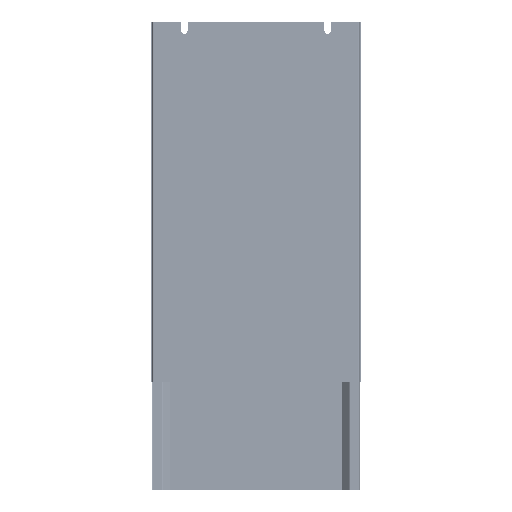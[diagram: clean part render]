
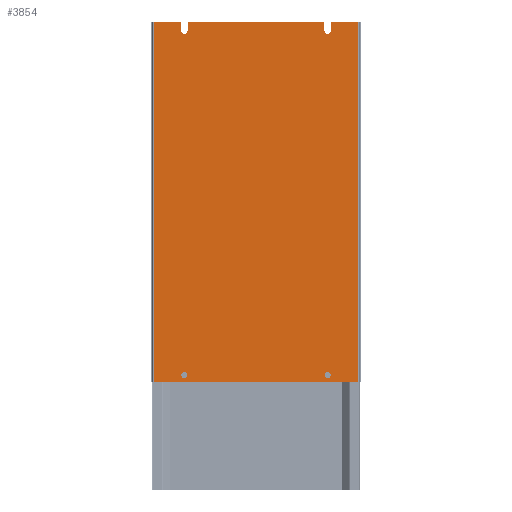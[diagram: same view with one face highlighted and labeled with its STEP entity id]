
A CAD part, front view. The second image highlights one B-rep face of the part: STEP entity #3854.
In plain terms, the highlighted planar face has unit normal (0, -1, 0).
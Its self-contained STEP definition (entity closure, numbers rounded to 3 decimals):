
#353=DIRECTION('',(0.,0.,1.));
#354=VECTOR('',#353,537.);
#355=CARTESIAN_POINT('',(171.5,0.,-268.5));
#356=LINE('',#355,#354);
#751=CARTESIAN_POINT('',(-120.,0.,-290.));
#752=DIRECTION('',(0.,1.,0.));
#753=DIRECTION('',(-1.,0.,0.));
#754=AXIS2_PLACEMENT_3D('',#751,#752,#753);
#759=CARTESIAN_POINT('',(-120.,0.,-290.));
#760=DIRECTION('',(0.,1.,0.));
#761=DIRECTION('',(1.,0.,0.));
#762=AXIS2_PLACEMENT_3D('',#759,#760,#761);
#767=CARTESIAN_POINT('',(120.,0.,-290.));
#768=DIRECTION('',(0.,1.,0.));
#769=DIRECTION('',(-1.,0.,0.));
#770=AXIS2_PLACEMENT_3D('',#767,#768,#769);
#775=CARTESIAN_POINT('',(120.,0.,-290.));
#776=DIRECTION('',(0.,1.,0.));
#777=DIRECTION('',(1.,0.,0.));
#778=AXIS2_PLACEMENT_3D('',#775,#776,#777);
#783=CARTESIAN_POINT('',(-120.,0.,287.));
#784=DIRECTION('',(0.,1.,0.));
#785=DIRECTION('',(1.,0.,0.));
#786=AXIS2_PLACEMENT_3D('',#783,#784,#785);
#791=DIRECTION('',(0.,0.,-1.));
#792=VECTOR('',#791,14.5);
#793=CARTESIAN_POINT('',(-114.75,0.,301.5));
#794=LINE('',#793,#792);
#798=DIRECTION('',(0.,0.,-1.));
#799=VECTOR('',#798,14.5);
#800=CARTESIAN_POINT('',(114.75,0.,301.5));
#801=LINE('',#800,#799);
#805=CARTESIAN_POINT('',(120.,0.,287.));
#806=DIRECTION('',(0.,1.,0.));
#807=DIRECTION('',(1.,0.,0.));
#808=AXIS2_PLACEMENT_3D('',#805,#806,#807);
#813=DIRECTION('',(0.,0.,-1.));
#814=VECTOR('',#813,14.5);
#815=CARTESIAN_POINT('',(125.25,0.,301.5));
#816=LINE('',#815,#814);
#820=DIRECTION('',(0.,0.,-1.));
#821=VECTOR('',#820,14.5);
#822=CARTESIAN_POINT('',(-125.25,0.,301.5));
#823=LINE('',#822,#821);
#876=DIRECTION('',(-1.,0.,0.));
#877=VECTOR('',#876,229.5);
#878=CARTESIAN_POINT('',(114.75,0.,301.5));
#879=LINE('',#878,#877);
#918=DIRECTION('',(-1.,0.,0.));
#919=VECTOR('',#918,46.25);
#920=CARTESIAN_POINT('',(171.5,0.,301.5));
#921=LINE('',#920,#919);
#947=DIRECTION('',(0.,0.,-1.));
#948=VECTOR('',#947,33.);
#949=CARTESIAN_POINT('',(171.5,0.,301.5));
#950=LINE('',#949,#948);
#1146=DIRECTION('',(0.,0.,-1.));
#1147=VECTOR('',#1146,33.);
#1148=CARTESIAN_POINT('',(171.5,0.,-268.5));
#1149=LINE('',#1148,#1147);
#1337=DIRECTION('',(1.,0.,0.));
#1338=VECTOR('',#1337,343.);
#1339=CARTESIAN_POINT('',(-171.5,0.,-301.5));
#1340=LINE('',#1339,#1338);
#1380=DIRECTION('',(0.,0.,1.));
#1381=VECTOR('',#1380,33.);
#1382=CARTESIAN_POINT('',(-171.5,0.,-301.5));
#1383=LINE('',#1382,#1381);
#1557=DIRECTION('',(0.,0.,1.));
#1558=VECTOR('',#1557,537.);
#1559=CARTESIAN_POINT('',(-171.5,0.,-268.5));
#1560=LINE('',#1559,#1558);
#2207=DIRECTION('',(0.,0.,1.));
#2208=VECTOR('',#2207,33.);
#2209=CARTESIAN_POINT('',(-171.5,0.,268.5));
#2210=LINE('',#2209,#2208);
#2391=DIRECTION('',(-1.,0.,0.));
#2392=VECTOR('',#2391,46.25);
#2393=CARTESIAN_POINT('',(-125.25,0.,301.5));
#2394=LINE('',#2393,#2392);
#2879=CARTESIAN_POINT('',(171.5,0.,-268.5));
#2880=VERTEX_POINT('',#2879);
#2881=CARTESIAN_POINT('',(171.5,0.,268.5));
#2882=VERTEX_POINT('',#2881);
#2885=CARTESIAN_POINT('',(-171.5,0.,-268.5));
#2886=VERTEX_POINT('',#2885);
#2887=CARTESIAN_POINT('',(-171.5,0.,268.5));
#2888=VERTEX_POINT('',#2887);
#3155=CARTESIAN_POINT('',(-171.5,0.,-301.5));
#3156=VERTEX_POINT('',#3155);
#3171=CARTESIAN_POINT('',(171.5,0.,-301.5));
#3172=VERTEX_POINT('',#3171);
#3187=CARTESIAN_POINT('',(171.5,0.,301.5));
#3188=VERTEX_POINT('',#3187);
#3203=CARTESIAN_POINT('',(-171.5,0.,301.5));
#3204=VERTEX_POINT('',#3203);
#3213=CARTESIAN_POINT('',(-125.25,0.,-290.));
#3214=CARTESIAN_POINT('',(-114.75,0.,-290.));
#3215=VERTEX_POINT('',#3213);
#3216=VERTEX_POINT('',#3214);
#3217=CARTESIAN_POINT('',(114.75,0.,-290.));
#3218=CARTESIAN_POINT('',(125.25,0.,-290.));
#3219=VERTEX_POINT('',#3217);
#3220=VERTEX_POINT('',#3218);
#3221=CARTESIAN_POINT('',(-114.75,0.,287.));
#3222=CARTESIAN_POINT('',(-125.25,0.,287.));
#3223=VERTEX_POINT('',#3221);
#3224=VERTEX_POINT('',#3222);
#3225=CARTESIAN_POINT('',(-114.75,0.,301.5));
#3226=VERTEX_POINT('',#3225);
#3227=CARTESIAN_POINT('',(-125.25,0.,301.5));
#3228=VERTEX_POINT('',#3227);
#3229=CARTESIAN_POINT('',(125.25,0.,287.));
#3230=CARTESIAN_POINT('',(114.75,0.,287.));
#3231=VERTEX_POINT('',#3229);
#3232=VERTEX_POINT('',#3230);
#3233=CARTESIAN_POINT('',(125.25,0.,301.5));
#3234=VERTEX_POINT('',#3233);
#3235=CARTESIAN_POINT('',(114.75,0.,301.5));
#3236=VERTEX_POINT('',#3235);
#3805=CARTESIAN_POINT('',(-173.5,0.,-268.5));
#3806=DIRECTION('',(0.,-1.,0.));
#3807=DIRECTION('',(1.,0.,0.));
#3808=AXIS2_PLACEMENT_3D('',#3805,#3806,#3807);
#3809=PLANE('',#3808);
#3810=ORIENTED_EDGE('',*,*,#3795,.F.);
#3812=ORIENTED_EDGE('',*,*,#3811,.F.);
#3814=ORIENTED_EDGE('',*,*,#3813,.F.);
#3816=ORIENTED_EDGE('',*,*,#3815,.T.);
#3818=ORIENTED_EDGE('',*,*,#3817,.F.);
#3820=ORIENTED_EDGE('',*,*,#3819,.F.);
#3822=ORIENTED_EDGE('',*,*,#3821,.F.);
#3824=ORIENTED_EDGE('',*,*,#3823,.T.);
#3825=ORIENTED_EDGE('',*,*,#3529,.F.);
#3827=ORIENTED_EDGE('',*,*,#3826,.T.);
#3829=ORIENTED_EDGE('',*,*,#3828,.F.);
#3831=ORIENTED_EDGE('',*,*,#3830,.T.);
#3833=ORIENTED_EDGE('',*,*,#3832,.T.);
#3835=ORIENTED_EDGE('',*,*,#3834,.T.);
#3837=ORIENTED_EDGE('',*,*,#3836,.F.);
#3839=ORIENTED_EDGE('',*,*,#3838,.T.);
#3840=EDGE_LOOP('',(#3810,#3812,#3814,#3816,#3818,#3820,#3822,#3824,#3825,#3827,
#3829,#3831,#3833,#3835,#3837,#3839));
#3841=FACE_OUTER_BOUND('',#3840,.F.);
#3843=ORIENTED_EDGE('',*,*,#3842,.F.);
#3845=ORIENTED_EDGE('',*,*,#3844,.F.);
#3846=EDGE_LOOP('',(#3843,#3845));
#3847=FACE_BOUND('',#3846,.F.);
#3849=ORIENTED_EDGE('',*,*,#3848,.F.);
#3851=ORIENTED_EDGE('',*,*,#3850,.F.);
#3852=EDGE_LOOP('',(#3849,#3851));
#3853=FACE_BOUND('',#3852,.F.);
#3854=ADVANCED_FACE('',(#3841,#3847,#3853),#3809,.T.);
#755=CIRCLE('',#754,5.25);
#763=CIRCLE('',#762,5.25);
#771=CIRCLE('',#770,5.25);
#779=CIRCLE('',#778,5.25);
#787=CIRCLE('',#786,5.25);
#809=CIRCLE('',#808,5.25);
#3529=EDGE_CURVE('',#2880,#2882,#356,.T.);
#3795=EDGE_CURVE('',#3223,#3224,#787,.T.);
#3811=EDGE_CURVE('',#3226,#3223,#794,.T.);
#3813=EDGE_CURVE('',#3236,#3226,#879,.T.);
#3815=EDGE_CURVE('',#3236,#3232,#801,.T.);
#3817=EDGE_CURVE('',#3231,#3232,#809,.T.);
#3819=EDGE_CURVE('',#3234,#3231,#816,.T.);
#3821=EDGE_CURVE('',#3188,#3234,#921,.T.);
#3823=EDGE_CURVE('',#3188,#2882,#950,.T.);
#3826=EDGE_CURVE('',#2880,#3172,#1149,.T.);
#3828=EDGE_CURVE('',#3156,#3172,#1340,.T.);
#3830=EDGE_CURVE('',#3156,#2886,#1383,.T.);
#3832=EDGE_CURVE('',#2886,#2888,#1560,.T.);
#3834=EDGE_CURVE('',#2888,#3204,#2210,.T.);
#3836=EDGE_CURVE('',#3228,#3204,#2394,.T.);
#3838=EDGE_CURVE('',#3228,#3224,#823,.T.);
#3842=EDGE_CURVE('',#3219,#3220,#771,.T.);
#3844=EDGE_CURVE('',#3220,#3219,#779,.T.);
#3848=EDGE_CURVE('',#3215,#3216,#755,.T.);
#3850=EDGE_CURVE('',#3216,#3215,#763,.T.);
